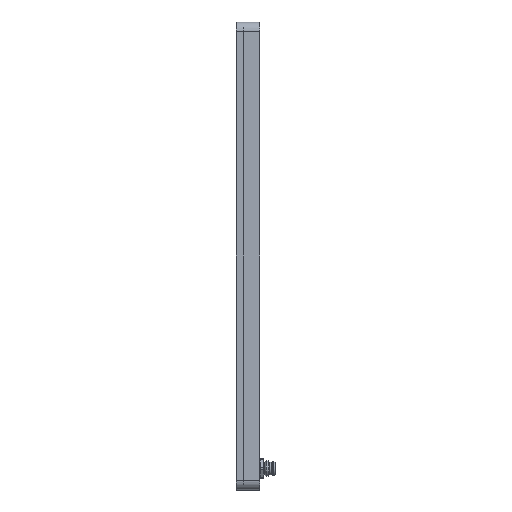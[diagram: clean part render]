
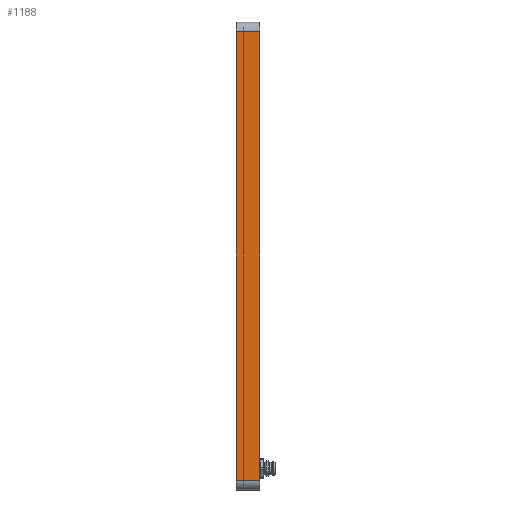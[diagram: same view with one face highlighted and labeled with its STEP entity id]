
A CAD part, left-side view. The second image highlights one B-rep face of the part: STEP entity #1188.
In plain terms, the highlighted planar face has unit normal (-1, 0, 0).
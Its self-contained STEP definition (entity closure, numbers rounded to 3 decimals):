
#176 = VECTOR ( 'NONE', #2585, 1000. ) ;
#191 = VERTEX_POINT ( 'NONE', #2750 ) ;
#313 = CARTESIAN_POINT ( 'NONE',  ( -201.419, -22.591, -65. ) ) ;
#388 = VERTEX_POINT ( 'NONE', #313 ) ;
#538 = CARTESIAN_POINT ( 'NONE',  ( -201.419, -10.591, 170. ) ) ;
#851 = DIRECTION ( 'NONE',  ( 1., 0., 0. ) ) ;
#1043 = EDGE_CURVE ( 'NONE', #191, #3699, #1484, .T. ) ;
#1154 = CARTESIAN_POINT ( 'NONE',  ( -201.419, -10.591, -65. ) ) ;
#1180 = EDGE_CURVE ( 'NONE', #3686, #388, #3829, .T. ) ;
#1188 = ADVANCED_FACE ( 'NONE', ( #1669 ), #2416, .F. ) ;
#1225 = VECTOR ( 'NONE', #3979, 1000. ) ;
#1244 = DIRECTION ( 'NONE',  ( 0., 0., 1. ) ) ;
#1440 = EDGE_CURVE ( 'NONE', #3686, #3699, #4072, .T. ) ;
#1451 = ORIENTED_EDGE ( 'NONE', *, *, #1440, .F. ) ;
#1484 = LINE ( 'NONE', #1711, #3540 ) ;
#1669 = FACE_OUTER_BOUND ( 'NONE', #2047, .T. ) ;
#1711 = CARTESIAN_POINT ( 'NONE',  ( -201.419, -10.591, 165. ) ) ;
#1966 = CARTESIAN_POINT ( 'NONE',  ( -201.419, -10.591, 165. ) ) ;
#1982 = AXIS2_PLACEMENT_3D ( 'NONE', #538, #851, #2729 ) ;
#2047 = EDGE_LOOP ( 'NONE', ( #1451, #2091, #2455, #2961 ) ) ;
#2091 = ORIENTED_EDGE ( 'NONE', *, *, #1180, .T. ) ;
#2223 = LINE ( 'NONE', #2471, #3899 ) ;
#2296 = CARTESIAN_POINT ( 'NONE',  ( -201.419, -10.591, -65. ) ) ;
#2416 = PLANE ( 'NONE',  #1982 ) ;
#2455 = ORIENTED_EDGE ( 'NONE', *, *, #3039, .T. ) ;
#2471 = CARTESIAN_POINT ( 'NONE',  ( -201.419, -22.591, 170. ) ) ;
#2585 = DIRECTION ( 'NONE',  ( 0., 0., 1. ) ) ;
#2631 = CARTESIAN_POINT ( 'NONE',  ( -201.419, -10.591, 170. ) ) ;
#2729 = DIRECTION ( 'NONE',  ( 0., 0., -1. ) ) ;
#2750 = CARTESIAN_POINT ( 'NONE',  ( -201.419, -22.591, 165. ) ) ;
#2961 = ORIENTED_EDGE ( 'NONE', *, *, #1043, .T. ) ;
#2981 = DIRECTION ( 'NONE',  ( 0., 1., 0. ) ) ;
#3039 = EDGE_CURVE ( 'NONE', #388, #191, #2223, .T. ) ;
#3540 = VECTOR ( 'NONE', #2981, 1000. ) ;
#3686 = VERTEX_POINT ( 'NONE', #2296 ) ;
#3699 = VERTEX_POINT ( 'NONE', #1966 ) ;
#3829 = LINE ( 'NONE', #1154, #1225 ) ;
#3899 = VECTOR ( 'NONE', #1244, 1000. ) ;
#3979 = DIRECTION ( 'NONE',  ( 0., -1., 0. ) ) ;
#4072 = LINE ( 'NONE', #2631, #176 ) ;
